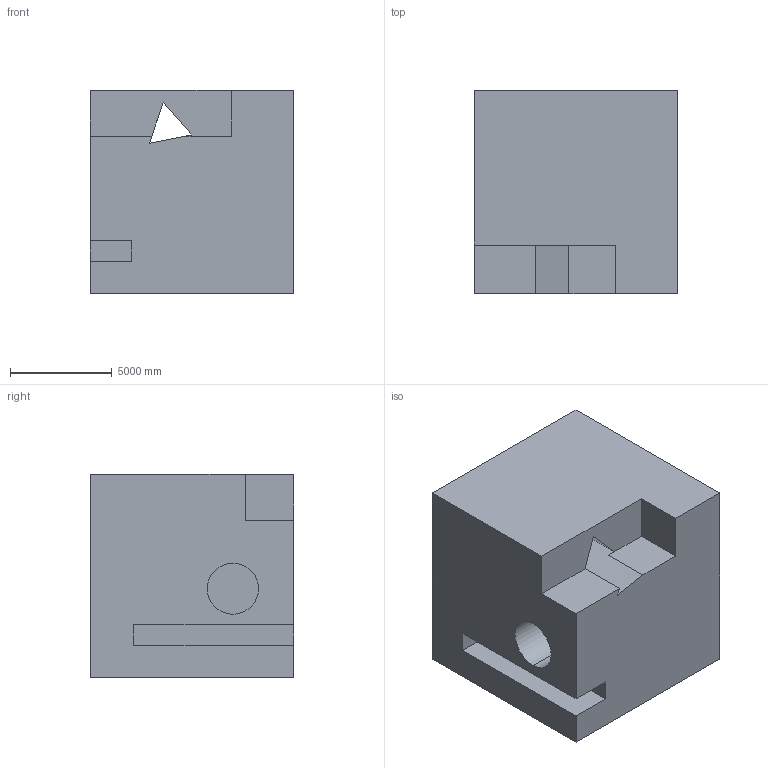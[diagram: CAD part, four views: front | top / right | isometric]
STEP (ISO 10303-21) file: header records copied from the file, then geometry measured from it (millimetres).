
FILE_DESCRIPTION (( 'STEP AP203' ), '1' );
FILE_NAME ('1467.STEP', '2022-08-18T14:39:14', ( 'user' ), ( '' ), 'SwSTEP 2.0', 'SolidWorks 2021', '' );
FILE_SCHEMA (( 'CONFIG_CONTROL_DESIGN' ));
Length unit declared in the file: centimetre
Products named in the file (1): 1467
Bounding box: 10000 x 10000 x 10000 mm (x, y, z)
Volume: 872168130222.8 mm3; surface area: 791012724.1 mm2
Topology: 1 solids, 1 shells, 26 faces, 66 edges, 44 vertices
Faces by surface type: plane 20, cylinder 6
Entity records: 863 total; most frequent: CARTESIAN_POINT 137, DIRECTION 132, ORIENTED_EDGE 132, EDGE_CURVE 66, LINE 54, VECTOR 54, VERTEX_POINT 44, AXIS2_PLACEMENT_3D 39
